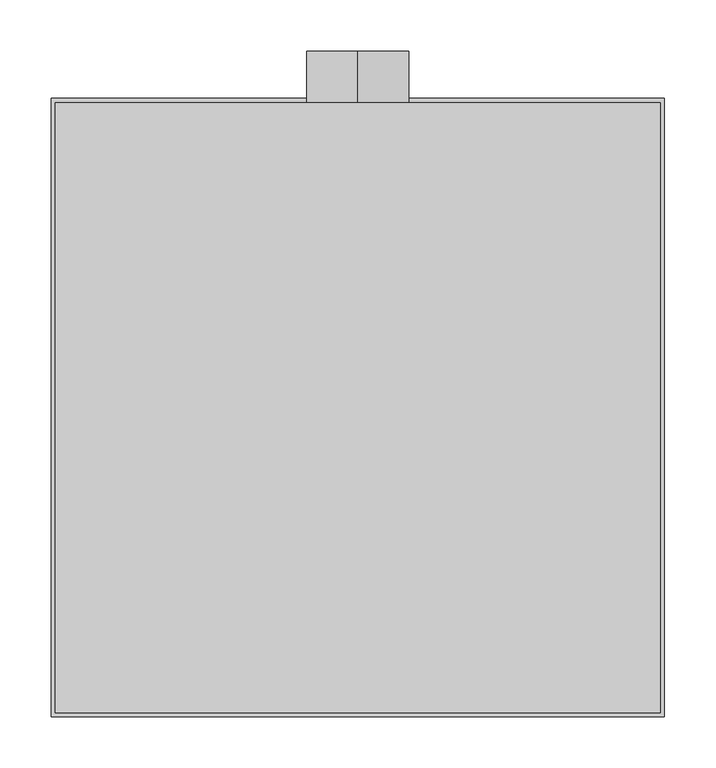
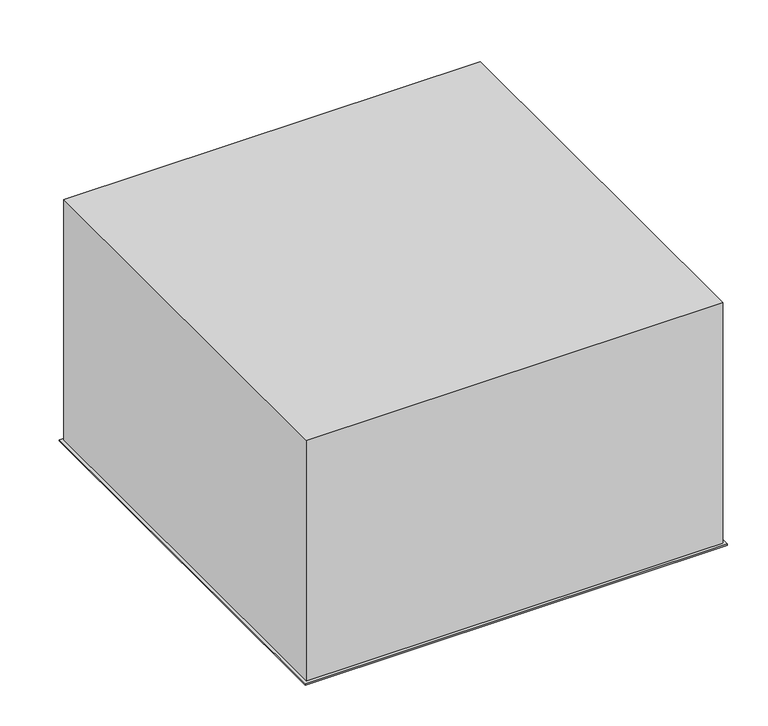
"""IFC4 building model written with IfcOpenShell, lengths in millimetres: air terminal geometry, EOL - plafonnier : EOL-P1-100-600x600."""

from ifc_helpers import new_model, si_unit, point, frame, frame_2d, origin, place, context, project, spatial, polyline, circle_curve, trimmed, segment, composite_curve, outline, extrude, source, transform, mapped, element, save
from ifc_brep_helpers import plane_surface, revolved_surface, advanced_brep


def air_terminal_674bfb5c(model_context):
    return source(origin(), model_context, "Body", "SolidModel", [
        extrude(outline(composite_curve([segment(polyline([(546.8125856, 1.0), (546.8125856, 2.0025269)]), True, "CONTINUOUS"), segment(trimmed(circle_curve(frame_2d((544.7125856, 31.0266548)), 29.1), [point((546.8125856, 2.0025269))], [point((573.5, 26.77286))], True, "CARTESIAN"), True, "CONTINUOUS"), segment(polyline([(573.5, 26.77286), (573.5, 35.0), (574.5, 35.0), (574.5, 26.7)]), True, "CONTINUOUS"), segment(trimmed(circle_curve(frame_2d((544.7125856, 31.0266548)), 30.1), [point((574.5, 26.7))], [point((546.8125856, 1.0))], False, "CARTESIAN"), True, "CONTINUOUS")], self_intersect=False)), frame((-286.3125856, 0.0, 0.0), z_axis=(1.0, 0.0, 0.0), x_axis=(0.0, 1.0, 0.0)), (0.0, 0.0, 1.0), 572.6251712),
        extrude(outline(composite_curve([segment(polyline([(519.8125856, 1.0), (519.8125856, 2.0025269)]), True, "CONTINUOUS"), segment(trimmed(circle_curve(frame_2d((517.7125856, 31.0266548)), 29.1), [point((519.8125856, 2.0025269))], [point((546.5, 26.77286))], True, "CARTESIAN"), True, "CONTINUOUS"), segment(polyline([(546.5, 26.77286), (546.5, 35.0), (547.5, 35.0), (547.5, 26.7)]), True, "CONTINUOUS"), segment(trimmed(circle_curve(frame_2d((517.7125856, 31.0266548)), 30.1), [point((547.5, 26.7))], [point((519.8125856, 1.0))], False, "CARTESIAN"), True, "CONTINUOUS")], self_intersect=False)), frame((-286.3125856, 0.0, 0.0), z_axis=(1.0, 0.0, 0.0), x_axis=(0.0, 1.0, 0.0)), (0.0, 0.0, 1.0), 572.6251712),
        extrude(outline(composite_curve([segment(polyline([(492.8125856, 1.0), (492.8125856, 2.0025269)]), True, "CONTINUOUS"), segment(trimmed(circle_curve(frame_2d((490.7125856, 31.0266548)), 29.1), [point((492.8125856, 2.0025269))], [point((519.5, 26.77286))], True, "CARTESIAN"), True, "CONTINUOUS"), segment(polyline([(519.5, 26.77286), (519.5, 35.0), (520.5, 35.0), (520.5, 26.7)]), True, "CONTINUOUS"), segment(trimmed(circle_curve(frame_2d((490.7125856, 31.0266548)), 30.1), [point((520.5, 26.7))], [point((492.8125856, 1.0))], False, "CARTESIAN"), True, "CONTINUOUS")], self_intersect=False)), frame((-286.3125856, 0.0, 0.0), z_axis=(1.0, 0.0, 0.0), x_axis=(0.0, 1.0, 0.0)), (0.0, 0.0, 1.0), 572.6251712),
        extrude(outline(composite_curve([segment(polyline([(465.8125856, 1.0), (465.8125856, 2.0025269)]), True, "CONTINUOUS"), segment(trimmed(circle_curve(frame_2d((463.7125856, 31.0266548)), 29.1), [point((465.8125856, 2.0025269))], [point((492.5, 26.77286))], True, "CARTESIAN"), True, "CONTINUOUS"), segment(polyline([(492.5, 26.77286), (492.5, 35.0), (493.5, 35.0), (493.5, 26.7)]), True, "CONTINUOUS"), segment(trimmed(circle_curve(frame_2d((463.7125856, 31.0266548)), 30.1), [point((493.5, 26.7))], [point((465.8125856, 1.0))], False, "CARTESIAN"), True, "CONTINUOUS")], self_intersect=False)), frame((-286.3125856, 0.0, 0.0), z_axis=(1.0, 0.0, 0.0), x_axis=(0.0, 1.0, 0.0)), (0.0, 0.0, 1.0), 572.6251712),
        extrude(outline(composite_curve([segment(polyline([(438.8125856, 1.0), (438.8125856, 2.0025269)]), True, "CONTINUOUS"), segment(trimmed(circle_curve(frame_2d((436.7125856, 31.0266548)), 29.1), [point((438.8125856, 2.0025269))], [point((465.5, 26.77286))], True, "CARTESIAN"), True, "CONTINUOUS"), segment(polyline([(465.5, 26.77286), (465.5, 35.0), (466.5, 35.0), (466.5, 26.7)]), True, "CONTINUOUS"), segment(trimmed(circle_curve(frame_2d((436.7125856, 31.0266548)), 30.1), [point((466.5, 26.7))], [point((438.8125856, 1.0))], False, "CARTESIAN"), True, "CONTINUOUS")], self_intersect=False)), frame((-286.3125856, 0.0, 0.0), z_axis=(1.0, 0.0, 0.0), x_axis=(0.0, 1.0, 0.0)), (0.0, 0.0, 1.0), 572.6251712),
        extrude(outline(composite_curve([segment(polyline([(411.8125856, 1.0), (411.8125856, 2.0025269)]), True, "CONTINUOUS"), segment(trimmed(circle_curve(frame_2d((409.7125856, 31.0266548)), 29.1), [point((411.8125856, 2.0025269))], [point((438.5, 26.77286))], True, "CARTESIAN"), True, "CONTINUOUS"), segment(polyline([(438.5, 26.77286), (438.5, 35.0), (439.5, 35.0), (439.5, 26.7)]), True, "CONTINUOUS"), segment(trimmed(circle_curve(frame_2d((409.7125856, 31.0266548)), 30.1), [point((439.5, 26.7))], [point((411.8125856, 1.0))], False, "CARTESIAN"), True, "CONTINUOUS")], self_intersect=False)), frame((-286.3125856, 0.0, 0.0), z_axis=(1.0, 0.0, 0.0), x_axis=(0.0, 1.0, 0.0)), (0.0, 0.0, 1.0), 572.6251712),
        extrude(outline(composite_curve([segment(polyline([(384.8125856, 1.0), (384.8125856, 2.0025269)]), True, "CONTINUOUS"), segment(trimmed(circle_curve(frame_2d((382.7125856, 31.0266548)), 29.1), [point((384.8125856, 2.0025269))], [point((411.5, 26.77286))], True, "CARTESIAN"), True, "CONTINUOUS"), segment(polyline([(411.5, 26.77286), (411.5, 35.0), (412.5, 35.0), (412.5, 26.7)]), True, "CONTINUOUS"), segment(trimmed(circle_curve(frame_2d((382.7125856, 31.0266548)), 30.1), [point((412.5, 26.7))], [point((384.8125856, 1.0))], False, "CARTESIAN"), True, "CONTINUOUS")], self_intersect=False)), frame((-286.3125856, 0.0, 0.0), z_axis=(1.0, 0.0, 0.0), x_axis=(0.0, 1.0, 0.0)), (0.0, 0.0, 1.0), 572.6251712),
        extrude(outline(composite_curve([segment(polyline([(357.8125856, 1.0), (357.8125856, 2.0025269)]), True, "CONTINUOUS"), segment(trimmed(circle_curve(frame_2d((355.7125856, 31.0266548)), 29.1), [point((357.8125856, 2.0025269))], [point((384.5, 26.77286))], True, "CARTESIAN"), True, "CONTINUOUS"), segment(polyline([(384.5, 26.77286), (384.5, 35.0), (385.5, 35.0), (385.5, 26.7)]), True, "CONTINUOUS"), segment(trimmed(circle_curve(frame_2d((355.7125856, 31.0266548)), 30.1), [point((385.5, 26.7))], [point((357.8125856, 1.0))], False, "CARTESIAN"), True, "CONTINUOUS")], self_intersect=False)), frame((-286.3125856, 0.0, 0.0), z_axis=(1.0, 0.0, 0.0), x_axis=(0.0, 1.0, 0.0)), (0.0, 0.0, 1.0), 572.6251712),
        extrude(outline(composite_curve([segment(polyline([(330.8125856, 1.0), (330.8125856, 2.0025269)]), True, "CONTINUOUS"), segment(trimmed(circle_curve(frame_2d((328.7125856, 31.0266548)), 29.1), [point((330.8125856, 2.0025269))], [point((357.5, 26.77286))], True, "CARTESIAN"), True, "CONTINUOUS"), segment(polyline([(357.5, 26.77286), (357.5, 35.0), (358.5, 35.0), (358.5, 26.7)]), True, "CONTINUOUS"), segment(trimmed(circle_curve(frame_2d((328.7125856, 31.0266548)), 30.1), [point((358.5, 26.7))], [point((330.8125856, 1.0))], False, "CARTESIAN"), True, "CONTINUOUS")], self_intersect=False)), frame((-286.3125856, 0.0, 0.0), z_axis=(1.0, 0.0, 0.0), x_axis=(0.0, 1.0, 0.0)), (0.0, 0.0, 1.0), 572.6251712),
        extrude(outline(composite_curve([segment(polyline([(303.8125856, 1.0), (303.8125856, 2.0025269)]), True, "CONTINUOUS"), segment(trimmed(circle_curve(frame_2d((301.7125856, 31.0266548)), 29.1), [point((303.8125856, 2.0025269))], [point((330.5, 26.77286))], True, "CARTESIAN"), True, "CONTINUOUS"), segment(polyline([(330.5, 26.77286), (330.5, 35.0), (331.5, 35.0), (331.5, 26.7)]), True, "CONTINUOUS"), segment(trimmed(circle_curve(frame_2d((301.7125856, 31.0266548)), 30.1), [point((331.5, 26.7))], [point((303.8125856, 1.0))], False, "CARTESIAN"), True, "CONTINUOUS")], self_intersect=False)), frame((-286.3125856, 0.0, 0.0), z_axis=(1.0, 0.0, 0.0), x_axis=(0.0, 1.0, 0.0)), (0.0, 0.0, 1.0), 572.6251712),
        extrude(outline(composite_curve([segment(polyline([(276.8125856, 1.0), (276.8125856, 2.0025269)]), True, "CONTINUOUS"), segment(trimmed(circle_curve(frame_2d((274.7125856, 31.0266548)), 29.1), [point((276.8125856, 2.0025269))], [point((303.5, 26.77286))], True, "CARTESIAN"), True, "CONTINUOUS"), segment(polyline([(303.5, 26.77286), (303.5, 35.0), (304.5, 35.0), (304.5, 26.7)]), True, "CONTINUOUS"), segment(trimmed(circle_curve(frame_2d((274.7125856, 31.0266548)), 30.1), [point((304.5, 26.7))], [point((276.8125856, 1.0))], False, "CARTESIAN"), True, "CONTINUOUS")], self_intersect=False)), frame((-286.3125856, 0.0, 0.0), z_axis=(1.0, 0.0, 0.0), x_axis=(0.0, 1.0, 0.0)), (0.0, 0.0, 1.0), 572.6251712),
        extrude(outline(composite_curve([segment(polyline([(249.8125856, 1.0), (249.8125856, 2.0025269)]), True, "CONTINUOUS"), segment(trimmed(circle_curve(frame_2d((247.7125856, 31.0266548)), 29.1), [point((249.8125856, 2.0025269))], [point((276.5, 26.77286))], True, "CARTESIAN"), True, "CONTINUOUS"), segment(polyline([(276.5, 26.77286), (276.5, 35.0), (277.5, 35.0), (277.5, 26.7)]), True, "CONTINUOUS"), segment(trimmed(circle_curve(frame_2d((247.7125856, 31.0266548)), 30.1), [point((277.5, 26.7))], [point((249.8125856, 1.0))], False, "CARTESIAN"), True, "CONTINUOUS")], self_intersect=False)), frame((-286.3125856, 0.0, 0.0), z_axis=(1.0, 0.0, 0.0), x_axis=(0.0, 1.0, 0.0)), (0.0, 0.0, 1.0), 572.6251712),
        extrude(outline(composite_curve([segment(polyline([(222.8125856, 1.0), (222.8125856, 2.0025269)]), True, "CONTINUOUS"), segment(trimmed(circle_curve(frame_2d((220.7125856, 31.0266548)), 29.1), [point((222.8125856, 2.0025269))], [point((249.5, 26.77286))], True, "CARTESIAN"), True, "CONTINUOUS"), segment(polyline([(249.5, 26.77286), (249.5, 35.0), (250.5, 35.0), (250.5, 26.7)]), True, "CONTINUOUS"), segment(trimmed(circle_curve(frame_2d((220.7125856, 31.0266548)), 30.1), [point((250.5, 26.7))], [point((222.8125856, 1.0))], False, "CARTESIAN"), True, "CONTINUOUS")], self_intersect=False)), frame((-286.3125856, 0.0, 0.0), z_axis=(1.0, 0.0, 0.0), x_axis=(0.0, 1.0, 0.0)), (0.0, 0.0, 1.0), 572.6251712),
        extrude(outline(composite_curve([segment(polyline([(195.8125856, 1.0), (195.8125856, 2.0025269)]), True, "CONTINUOUS"), segment(trimmed(circle_curve(frame_2d((193.7125856, 31.0266548)), 29.1), [point((195.8125856, 2.0025269))], [point((222.5, 26.77286))], True, "CARTESIAN"), True, "CONTINUOUS"), segment(polyline([(222.5, 26.77286), (222.5, 35.0), (223.5, 35.0), (223.5, 26.7)]), True, "CONTINUOUS"), segment(trimmed(circle_curve(frame_2d((193.7125856, 31.0266548)), 30.1), [point((223.5, 26.7))], [point((195.8125856, 1.0))], False, "CARTESIAN"), True, "CONTINUOUS")], self_intersect=False)), frame((-286.3125856, 0.0, 0.0), z_axis=(1.0, 0.0, 0.0), x_axis=(0.0, 1.0, 0.0)), (0.0, 0.0, 1.0), 572.6251712),
        extrude(outline(composite_curve([segment(polyline([(168.8125856, 1.0), (168.8125856, 2.0025269)]), True, "CONTINUOUS"), segment(trimmed(circle_curve(frame_2d((166.7125856, 31.0266548)), 29.1), [point((168.8125856, 2.0025269))], [point((195.5, 26.77286))], True, "CARTESIAN"), True, "CONTINUOUS"), segment(polyline([(195.5, 26.77286), (195.5, 35.0), (196.5, 35.0), (196.5, 26.7)]), True, "CONTINUOUS"), segment(trimmed(circle_curve(frame_2d((166.7125856, 31.0266548)), 30.1), [point((196.5, 26.7))], [point((168.8125856, 1.0))], False, "CARTESIAN"), True, "CONTINUOUS")], self_intersect=False)), frame((-286.3125856, 0.0, 0.0), z_axis=(1.0, 0.0, 0.0), x_axis=(0.0, 1.0, 0.0)), (0.0, 0.0, 1.0), 572.6251712),
        extrude(outline(composite_curve([segment(polyline([(141.8125856, 1.0), (141.8125856, 2.0025269)]), True, "CONTINUOUS"), segment(trimmed(circle_curve(frame_2d((139.7125856, 31.0266548)), 29.1), [point((141.8125856, 2.0025269))], [point((168.5, 26.77286))], True, "CARTESIAN"), True, "CONTINUOUS"), segment(polyline([(168.5, 26.77286), (168.5, 35.0), (169.5, 35.0), (169.5, 26.7)]), True, "CONTINUOUS"), segment(trimmed(circle_curve(frame_2d((139.7125856, 31.0266548)), 30.1), [point((169.5, 26.7))], [point((141.8125856, 1.0))], False, "CARTESIAN"), True, "CONTINUOUS")], self_intersect=False)), frame((-286.3125856, 0.0, 0.0), z_axis=(1.0, 0.0, 0.0), x_axis=(0.0, 1.0, 0.0)), (0.0, 0.0, 1.0), 572.6251712),
        extrude(outline(composite_curve([segment(polyline([(114.8125856, 1.0), (114.8125856, 2.0025269)]), True, "CONTINUOUS"), segment(trimmed(circle_curve(frame_2d((112.7125856, 31.0266548)), 29.1), [point((114.8125856, 2.0025269))], [point((141.5, 26.77286))], True, "CARTESIAN"), True, "CONTINUOUS"), segment(polyline([(141.5, 26.77286), (141.5, 35.0), (142.5, 35.0), (142.5, 26.7)]), True, "CONTINUOUS"), segment(trimmed(circle_curve(frame_2d((112.7125856, 31.0266548)), 30.1), [point((142.5, 26.7))], [point((114.8125856, 1.0))], False, "CARTESIAN"), True, "CONTINUOUS")], self_intersect=False)), frame((-286.3125856, 0.0, 0.0), z_axis=(1.0, 0.0, 0.0), x_axis=(0.0, 1.0, 0.0)), (0.0, 0.0, 1.0), 572.6251712),
        extrude(outline(composite_curve([segment(polyline([(87.8125856, 1.0), (87.8125856, 2.0025269)]), True, "CONTINUOUS"), segment(trimmed(circle_curve(frame_2d((85.7125856, 31.0266548)), 29.1), [point((87.8125856, 2.0025269))], [point((114.5, 26.77286))], True, "CARTESIAN"), True, "CONTINUOUS"), segment(polyline([(114.5, 26.77286), (114.5, 35.0), (115.5, 35.0), (115.5, 26.7)]), True, "CONTINUOUS"), segment(trimmed(circle_curve(frame_2d((85.7125856, 31.0266548)), 30.1), [point((115.5, 26.7))], [point((87.8125856, 1.0))], False, "CARTESIAN"), True, "CONTINUOUS")], self_intersect=False)), frame((-286.3125856, 0.0, 0.0), z_axis=(1.0, 0.0, 0.0), x_axis=(0.0, 1.0, 0.0)), (0.0, 0.0, 1.0), 572.6251712),
        extrude(outline(composite_curve([segment(polyline([(60.8125856, 1.0), (60.8125856, 2.0025269)]), True, "CONTINUOUS"), segment(trimmed(circle_curve(frame_2d((58.7125856, 31.0266548)), 29.1), [point((60.8125856, 2.0025269))], [point((87.5, 26.77286))], True, "CARTESIAN"), True, "CONTINUOUS"), segment(polyline([(87.5, 26.77286), (87.5, 35.0), (88.5, 35.0), (88.5, 26.7)]), True, "CONTINUOUS"), segment(trimmed(circle_curve(frame_2d((58.7125856, 31.0266548)), 30.1), [point((88.5, 26.7))], [point((60.8125856, 1.0))], False, "CARTESIAN"), True, "CONTINUOUS")], self_intersect=False)), frame((-286.3125856, 0.0, 0.0), z_axis=(1.0, 0.0, 0.0), x_axis=(0.0, 1.0, 0.0)), (0.0, 0.0, 1.0), 572.6251712),
        extrude(outline(composite_curve([segment(polyline([(33.8125856, 1.0), (33.8125856, 2.0025269)]), True, "CONTINUOUS"), segment(trimmed(circle_curve(frame_2d((31.7125856, 31.0266548)), 29.1), [point((33.8125856, 2.0025269))], [point((60.5, 26.77286))], True, "CARTESIAN"), True, "CONTINUOUS"), segment(polyline([(60.5, 26.77286), (60.5, 35.0), (61.5, 35.0), (61.5, 26.7)]), True, "CONTINUOUS"), segment(trimmed(circle_curve(frame_2d((31.7125856, 31.0266548)), 30.1), [point((61.5, 26.7))], [point((33.8125856, 1.0))], False, "CARTESIAN"), True, "CONTINUOUS")], self_intersect=False)), frame((-286.3125856, 0.0, 0.0), z_axis=(1.0, 0.0, 0.0), x_axis=(0.0, 1.0, 0.0)), (0.0, 0.0, 1.0), 572.6251712),
        extrude(outline(composite_curve([segment(polyline([(6.8125856, 1.0), (6.8125856, 2.0025269)]), True, "CONTINUOUS"), segment(trimmed(circle_curve(frame_2d((4.7125856, 31.0266548)), 29.1), [point((6.8125856, 2.0025269))], [point((33.5, 26.77286))], True, "CARTESIAN"), True, "CONTINUOUS"), segment(polyline([(33.5, 26.77286), (33.5, 35.0), (34.5, 35.0), (34.5, 26.7)]), True, "CONTINUOUS"), segment(trimmed(circle_curve(frame_2d((4.7125856, 31.0266548)), 30.1), [point((34.5, 26.7))], [point((6.8125856, 1.0))], False, "CARTESIAN"), True, "CONTINUOUS")], self_intersect=False)), frame((-286.3125856, 0.0, 0.0), z_axis=(1.0, 0.0, 0.0), x_axis=(0.0, 1.0, 0.0)), (0.0, 0.0, 1.0), 572.6251712),
        extrude(outline(polyline([(299.0, 594.0), (299.0, -9.0), (-299.0, -9.0), (-299.0, 594.0), (299.0, 594.0)]), holes=[polyline([(290.0, 585.0), (-290.0, 585.0), (-290.0, 0.0), (290.0, 0.0), (290.0, 585.0)])]), frame((0.0, 0.0, -2.0), z_axis=(0.0, 0.0, 1.0), x_axis=(1.0, 0.0, 0.0)), (0.0, 0.0, 1.0), 2.0),
        extrude(outline(composite_curve([segment(trimmed(circle_curve(frame_2d((241.0, 0.0)), 50.0), [point((191.0, 0.0))], [point((291.0, 0.0))], False, "CARTESIAN"), True, "CONTINUOUS"), segment(trimmed(circle_curve(frame_2d((241.0, 0.0)), 50.0), [point((291.0, 0.0))], [point((191.0, 0.0))], False, "CARTESIAN"), True, "CONTINUOUS")], self_intersect=False), holes=[composite_curve([segment(trimmed(circle_curve(frame_2d((241.0, 0.0)), 49.0), [point((241.0, 49.0))], [point((241.0, -49.0))], True, "CARTESIAN"), True, "CONTINUOUS"), segment(trimmed(circle_curve(frame_2d((241.0, 0.0)), 49.0), [point((241.0, -49.0))], [point((241.0, 49.0))], True, "CARTESIAN"), True, "CONTINUOUS")], self_intersect=False)]), frame((0.0, 590.0, 0.0), z_axis=(0.0, 1.0, 0.0), x_axis=(0.0, 0.0, 1.0)), (0.0, 0.0, 1.0), 50.0),
        advanced_brep(
        [(295.0, 590.0, 361.0), (-295.0, 590.0, 361.0), (-295.0, -5.0, 361.0), (295.0, -5.0, 361.0), (295.0, 590.0, 0.0), (295.0, -5.0, 0.0), (-295.0, -5.0, 0.0), (-295.0, 590.0, 0.0), (290.0, 585.0, 0.0), (-290.0, 585.0, 0.0), (-290.0, 0.0, 0.0), (290.0, 0.0, 0.0), (-49.0, 590.0, 241.0), (49.0, 590.0, 241.0), (290.0, 585.0, 356.0), (290.0, 0.0, 356.0), (-290.0, 0.0, 356.0), (-290.0, 585.0, 356.0), (49.0, 585.0, 241.0), (-49.0, 585.0, 241.0)],
        [
            (0, 1),
            (1, 2),
            (2, 3),
            (3, 0),
            (4, 5),
            (5, 6),
            (6, 7),
            (7, 4),
            (8, 9),
            (9, 10),
            (10, 11),
            (11, 8),
            (0, 4),
            (7, 1),
            (12, 13, circle_curve(frame((0.0, 590.0, 241.0), z_axis=(0.0, -1.0, 0.0), x_axis=(1.0, 0.0, 0.0)), 49.0)),
            (13, 12, circle_curve(frame((0.0, 590.0, 241.0), z_axis=(0.0, -1.0, 0.0), x_axis=(1.0, 0.0, 0.0)), 49.0)),
            (6, 2),
            (5, 3),
            (14, 15),
            (15, 16),
            (16, 17),
            (17, 14),
            (17, 9),
            (8, 14),
            (18, 19, circle_curve(frame((0.0, 585.0, 241.0), z_axis=(0.0, 1.0, 0.0), x_axis=(1.0, 0.0, 0.0)), 49.0)),
            (19, 18, circle_curve(frame((0.0, 585.0, 241.0), z_axis=(0.0, 1.0, 0.0), x_axis=(1.0, 0.0, 0.0)), 49.0)),
            (16, 10),
            (15, 11),
            (12, 19),
            (18, 13),
        ],
        [
            plane_surface(frame((-295.0, 590.0, 361.0), z_axis=(0.0, 0.0, 1.0), x_axis=(-1.0, 0.0, 0.0))),
            plane_surface(frame((-295.0, 590.0, 0.0), z_axis=(0.0, 0.0, -1.0), x_axis=(1.0, 0.0, 0.0))),
            plane_surface(frame((295.0, 590.0, 361.0), z_axis=(0.0, 1.0, 0.0), x_axis=(0.0, 0.0, -1.0))),
            plane_surface(frame((-295.0, 590.0, 361.0), z_axis=(-1.0, 0.0, 0.0), x_axis=(0.0, 0.0, -1.0))),
            plane_surface(frame((-295.0, -5.0, 361.0), z_axis=(0.0, -1.0, 0.0), x_axis=(0.0, 0.0, -1.0))),
            plane_surface(frame((295.0, -5.0, 361.0), z_axis=(1.0, 0.0, 0.0), x_axis=(0.0, 0.0, -1.0))),
            plane_surface(frame((-290.0, 585.0, 356.0), z_axis=(0.0, 0.0, -1.0), x_axis=(-1.0, 0.0, 0.0))),
            plane_surface(frame((290.0, 585.0, 356.0), z_axis=(0.0, -1.0, 0.0), x_axis=(0.0, 0.0, -1.0))),
            plane_surface(frame((-290.0, 585.0, 356.0), z_axis=(1.0, 0.0, 0.0), x_axis=(0.0, 0.0, -1.0))),
            plane_surface(frame((-290.0, 0.0, 356.0), z_axis=(0.0, 1.0, 0.0), x_axis=(0.0, 0.0, -1.0))),
            plane_surface(frame((290.0, 0.0, 356.0), z_axis=(-1.0, 0.0, 0.0), x_axis=(0.0, 0.0, -1.0))),
            revolved_surface(polyline([(49.0, 585.0, 241.0), (49.0, 590.0, 241.0)]), (0.0, 640.0, 241.0), (0.0, -1.0, 0.0)),
        ],
        [
            (0, [[1, 2, 3, 4]]),
            (1, [[5, 6, 7, 8], [9, 10, 11, 12]]),
            (2, [[-1, 13, -8, 14], [15, 16]]),
            (3, [[-2, -14, -7, 17]]),
            (4, [[-3, -17, -6, 18]]),
            (5, [[-4, -18, -5, -13]]),
            (6, [[19, 20, 21, 22]]),
            (7, [[-22, 23, -9, 24], [25, 26]]),
            (8, [[-21, 27, -10, -23]]),
            (9, [[-20, 28, -11, -27]]),
            (10, [[-19, -24, -12, -28]]),
            (11, [[29, -25, 30, -15]]),
            (11, [[-29, -16, -30, -26]]),
        ],
    ),
    ])


if __name__ == "__main__":
    model = new_model("IFC4")
    model_context = context("Model", 3, world=origin())
    ifc_project = project(units=[si_unit("LENGTHUNIT", "METRE", prefix="MILLI")], contexts=[model_context])
    site = spatial("IfcSite", under=ifc_project)
    building = spatial("IfcBuilding", under=site)
    placement = place(None, origin())
    air_terminal_shape = air_terminal_674bfb5c(model_context)
    element("IfcAirTerminal", 1, ObjectType="EOL - plafonnier : EOL-P1-100-600x600", at=placement, inside=building, context=model_context, shape_type="MappedRepresentation", body=[
        mapped(air_terminal_shape, transform((0.0, 0.0, 0.0), x_axis=(1.0, 0.0, 0.0), y_axis=(0.0, 1.0, 0.0), z_axis=(0.0, 0.0, 1.0))),
    ])
    save(model, "model.ifc")
